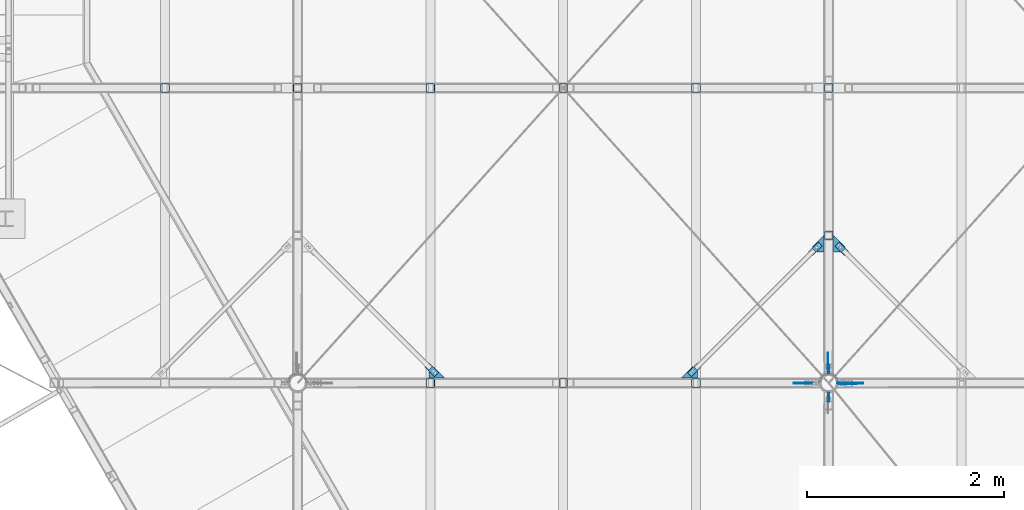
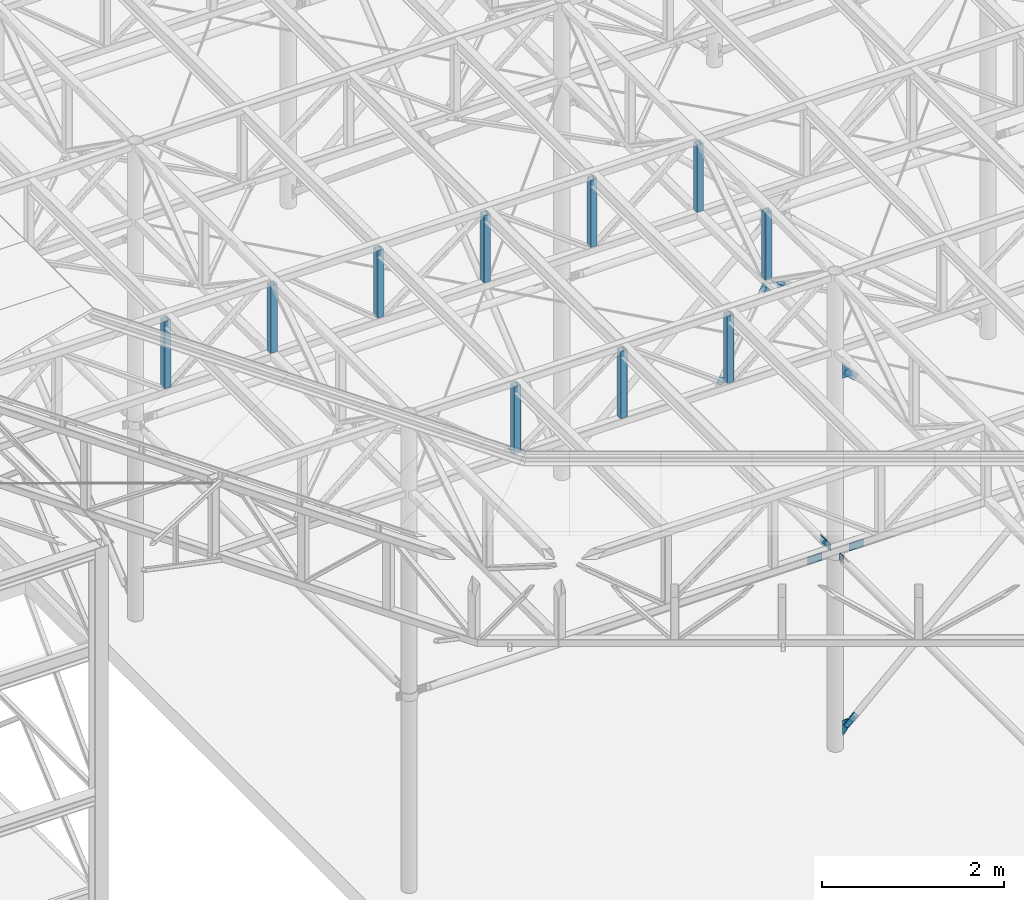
# One storey, part 74 of 132: 31 discrete accessories, 18 elements without a shape of their own.
"""IFC2X3 building model written with IfcOpenShell, lengths in millimetres."""

from ifc_helpers import new_model, si_unit, frame, origin_with_axes, origin_2d_with_axis, place, context, subcontext, project, spatial, polyline, rectangle, hollow_rectangle, outline, extrude, boolean, clip, halfspace, material, type_object, element, aggregate, save


model = new_model("IFC2X3")

# Units and contexts
model_context = context("Model", 3, precision=1e-05, world=origin_with_axes())
body_context = subcontext(model_context, "Body", "Model", "MODEL_VIEW")
ifc_project = project(units=[si_unit("LENGTHUNIT", "METRE", prefix="MILLI"), si_unit("AREAUNIT", "SQUARE_METRE"), si_unit("VOLUMEUNIT", "CUBIC_METRE"), si_unit("MASSUNIT", "GRAM", prefix="KILO"), si_unit("TIMEUNIT", "SECOND"), si_unit("PLANEANGLEUNIT", "RADIAN"), si_unit("SOLIDANGLEUNIT", "STERADIAN"), si_unit("THERMODYNAMICTEMPERATUREUNIT", "DEGREE_CELSIUS"), si_unit("LUMINOUSINTENSITYUNIT", "LUMEN")], contexts=[model_context])

# Site, building, storey
site_placement = place(None, origin_with_axes())
site = spatial("IfcSite", under=ifc_project, at=site_placement, Name="Budowa", CompositionType="ELEMENT")
building_placement = place(site_placement, origin_with_axes())
building = spatial("IfcBuilding", under=site, at=building_placement, Name="Undefined", CompositionType="ELEMENT")
storey_placement = place(building_placement, origin_with_axes())
storey = spatial("IfcBuildingStorey", under=building, at=storey_placement, Name="Undefined", CompositionType="ELEMENT", Elevation=0.0)

# Assembly, discrete accessory
assembly_1_placement = place(storey_placement, origin_with_axes())
assembly_1 = element("IfcElementAssembly", 1, at=assembly_1_placement, inside=storey, Name="Steel Assembly", AssemblyPlace="NOTDEFINED", PredefinedType="RIGID_FRAME")
ifc_material = material(Name="STEEL/S235")
discrete_accessory_type_1 = type_object("IfcDiscreteAccessoryType", Name="BLACHA")
discrete_accessory_1_placement = place(assembly_1_placement, frame((9251.86330560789, 5997.99999945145, 10116.0003779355), z_axis=(0.0, 1.0, 0.0), x_axis=(-1.0, 0.0, 0.0)))
discrete_accessory_1 = element("IfcDiscreteAccessory", 2, at=discrete_accessory_1_placement, type_object=discrete_accessory_type_1, material=ifc_material, Name="BLACHA", ObjectType="BL8*100", context=body_context, shape_type="SweptSolid", body=[
    extrude(outline(polyline([(180.0, -50.0), (0.0, -50.0), (0.0, 50.0), (180.0, 50.0), (180.0, -50.0)])), frame((0.0, 0.0, -4.0), z_axis=(0.0, 0.0, 1.0), x_axis=(1.0, 0.0, 0.0)), (0.0, 0.0, 1.0), 8.0),
])
aggregate(assembly_1, [discrete_accessory_1])

assembly_2_placement = place(storey_placement, origin_with_axes())
assembly_2 = element("IfcElementAssembly", 3, at=assembly_2_placement, inside=storey, Name="Steel Assembly", AssemblyPlace="NOTDEFINED", PredefinedType="RIGID_FRAME")
discrete_accessory_2_placement = place(assembly_2_placement, frame((9425.0000024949, 5902.00435667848, 10166.0003799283), z_axis=(-1.0, 0.0, 0.0), x_axis=(0.0, 0.0, -1.0)))
discrete_accessory_2 = element("IfcDiscreteAccessory", 4, at=discrete_accessory_2_placement, type_object=discrete_accessory_type_1, material=ifc_material, Name="BLACHA", ObjectType="BL8*90", context=body_context, shape_type="SweptSolid", body=[
    extrude(outline(polyline([(0.0, 0.0), (100.0, 0.0), (100.0, 89.9122619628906), (0.0, 89.9122619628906), (0.0, 0.0)])), frame((0.0, 0.0, -4.0), z_axis=(0.0, 0.0, 1.0), x_axis=(1.0, 0.0, 0.0)), (0.0, 0.0, 1.0), 8.0),
])
aggregate(assembly_2, [discrete_accessory_2])

assembly_3_placement = place(storey_placement, origin_with_axes())
assembly_3 = element("IfcElementAssembly", 5, at=assembly_3_placement, inside=storey, Name="Steel Assembly", AssemblyPlace="NOTDEFINED", PredefinedType="RIGID_FRAME")
discrete_accessory_3_placement = place(assembly_3_placement, frame((9417.00000277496, 6127.90790542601, 10116.0003779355), z_axis=(1.0, 0.0, 0.0), x_axis=(0.0, 1.0, 0.0)))
discrete_accessory_3 = element("IfcDiscreteAccessory", 6, at=discrete_accessory_3_placement, type_object=discrete_accessory_type_1, material=ifc_material, Name="BLACHA", ObjectType="BL8*100", context=body_context, shape_type="SweptSolid", body=[
    extrude(outline(polyline([(0.0, -50.0), (0.0, 50.0), (180.0, 50.0), (180.0, -50.0), (0.0, -50.0)])), frame((0.0, 0.0, -4.0), z_axis=(0.0, 0.0, 1.0), x_axis=(1.0, 0.0, 0.0)), (0.0, 0.0, 1.0), 8.0),
])
aggregate(assembly_3, [discrete_accessory_3])

assembly_4_placement = place(storey_placement, origin_with_axes())
assembly_4 = element("IfcElementAssembly", 7, at=assembly_4_placement, inside=storey, Name="Steel Assembly", AssemblyPlace="NOTDEFINED", PredefinedType="RIGID_FRAME")
discrete_accessory_4_placement = place(assembly_4_placement, frame((9425.00000277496, 6097.99564346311, 10066.0003796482), z_axis=(-1.0, 0.0, 0.0), x_axis=(0.0, 0.0, 1.0)))
discrete_accessory_4 = element("IfcDiscreteAccessory", 8, at=discrete_accessory_4_placement, type_object=discrete_accessory_type_1, material=ifc_material, Name="BLACHA", ObjectType="BL8*90", context=body_context, shape_type="SweptSolid", body=[
    extrude(outline(polyline([(0.0, 0.0), (100.0, 0.0), (100.0, 89.9122619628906), (0.0, 89.9122619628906), (0.0, 0.0)])), frame((0.0, 0.0, -4.0), z_axis=(0.0, 0.0, 1.0), x_axis=(1.0, 0.0, 0.0)), (0.0, 0.0, 1.0), 8.0),
])
aggregate(assembly_4, [discrete_accessory_4])

assembly_5_placement = place(storey_placement, origin_with_axes())
assembly_5 = element("IfcElementAssembly", 9, at=assembly_5_placement, inside=storey, Name="Steel Assembly", AssemblyPlace="NOTDEFINED", PredefinedType="RIGID_FRAME")
discrete_accessory_5_placement = place(assembly_5_placement, frame((9547.31003908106, 5989.99999762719, 7734.82673924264), z_axis=(0.67855182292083, 0.0, -0.734552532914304), x_axis=(0.734552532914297, 0.0, 0.678551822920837)))
discrete_accessory_5 = element("IfcDiscreteAccessory", 10, at=discrete_accessory_5_placement, type_object=discrete_accessory_type_1, material=ifc_material, Name="BLACHA", ObjectType="BL8*86", context=body_context, shape_type="CSG", body=[
    boolean("DIFFERENCE", boolean("DIFFERENCE", extrude(rectangle(XDim=8.0, YDim=86.0, at=origin_2d_with_axis()), frame((190.000000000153, -3.63797880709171e-12, 3.30513394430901e-13), z_axis=(-1.0, 0.0, 0.0), x_axis=(0.0, -1.0, 0.0)), (0.0, 0.0, 1.0), 190.0), extrude(outline(polyline([(0.0, 0.0), (20.0000000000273, -3.63797880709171e-12), (5.45696821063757e-12, 20.0000000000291), (0.0, 0.0)])), frame((-1.81898940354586e-12, 6.49999757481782, 42.9999999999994), z_axis=(0.0, -1.0, 0.0), x_axis=(0.0, 0.0, -1.0)), (0.0, 0.0, 1.0), 13.0)), extrude(outline(polyline([(0.0, 0.0), (20.0000000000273, -3.63797880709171e-12), (5.45696821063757e-12, 20.0000000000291), (0.0, 0.0)])), frame((-1.81898940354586e-12, -6.50000242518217, -42.9999999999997), z_axis=(0.0, 1.0, 0.0), x_axis=(0.0, 0.0, 1.0)), (0.0, 0.0, 1.0), 13.0)),
])
aggregate(assembly_5, [discrete_accessory_5])

assembly_6_placement = place(storey_placement, origin_with_axes())
assembly_6 = element("IfcElementAssembly", 11, at=assembly_6_placement, inside=storey, Name="Steel Assembly", AssemblyPlace="NOTDEFINED", PredefinedType="RIGID_FRAME")
discrete_accessory_6_placement = place(assembly_6_placement, frame((9513.8999996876, 5999.99900012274, 7825.00048828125), z_axis=(0.0, -1.0, 0.0), x_axis=(0.0, 0.0, -1.0)))
discrete_accessory_6 = element("IfcDiscreteAccessory", 12, at=discrete_accessory_6_placement, type_object=discrete_accessory_type_1, material=ifc_material, Name="BLACHA", ObjectType="BL8*126", context=body_context, shape_type="SweptSolid", body=[
    extrude(outline(polyline([(0.0, 0.0), (203.000061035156, 0.0), (203.000061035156, 10.0), (57.9996109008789, 126.000587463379), (-9.02218744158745e-10, 73.001091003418), (0.0, 0.0)])), frame((0.0, 0.0, -4.0), z_axis=(0.0, 0.0, 1.0), x_axis=(1.0, 0.0, 0.0)), (0.0, 0.0, 1.0), 8.0),
])

assembly_7_placement = place(storey_placement, origin_with_axes())
assembly_7 = element("IfcElementAssembly", 13, at=assembly_7_placement, inside=storey, Name="Steel Assembly", AssemblyPlace="NOTDEFINED", PredefinedType="RIGID_FRAME")
discrete_accessory_7_placement = place(assembly_7_placement, frame((9598.1366940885, 5997.99999945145, 10116.0003779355), z_axis=(0.0, -1.0, 0.0), x_axis=(1.0, 0.0, 0.0)))
discrete_accessory_7 = element("IfcDiscreteAccessory", 14, at=discrete_accessory_7_placement, type_object=discrete_accessory_type_1, material=ifc_material, Name="BLACHA", ObjectType="BL8*100", context=body_context, shape_type="SweptSolid", body=[
    extrude(outline(polyline([(0.0, -50.0), (0.0, 50.0), (180.0, 50.0), (180.0, -50.0), (0.0, -50.0)])), frame((0.0, 0.0, -4.0), z_axis=(0.0, 0.0, 1.0), x_axis=(1.0, 0.0, 0.0)), (0.0, 0.0, 1.0), 8.0),
])
aggregate(assembly_7, [discrete_accessory_7])

assembly_8_placement = place(storey_placement, origin_with_axes())
assembly_8 = element("IfcElementAssembly", 15, at=assembly_8_placement, inside=storey, Name="Steel Assembly", AssemblyPlace="NOTDEFINED", PredefinedType="RIGID_FRAME")
discrete_accessory_8_placement = place(assembly_8_placement, frame((9547.31003885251, 5989.99999752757, 12497.1740173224), z_axis=(-0.67855182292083, 0.0, -0.734552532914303), x_axis=(0.734552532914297, 0.0, -0.678551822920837)))
discrete_accessory_8 = element("IfcDiscreteAccessory", 16, at=discrete_accessory_8_placement, type_object=discrete_accessory_type_1, material=ifc_material, Name="BLACHA", ObjectType="BL8*86", context=body_context, shape_type="CSG", body=[
    boolean("DIFFERENCE", boolean("DIFFERENCE", extrude(rectangle(XDim=8.0, YDim=86.0, at=origin_2d_with_axis()), frame((190.000000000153, -3.63797880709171e-12, 3.30513394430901e-13), z_axis=(-1.0, 0.0, 0.0), x_axis=(0.0, -1.0, 0.0)), (0.0, 0.0, 1.0), 190.0), extrude(outline(polyline([(0.0, 0.0), (20.0000000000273, -3.63797880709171e-12), (5.45696821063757e-12, 20.0000000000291), (0.0, 0.0)])), frame((-1.81898940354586e-12, 6.49999757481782, 42.9999999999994), z_axis=(0.0, -1.0, 0.0), x_axis=(0.0, 0.0, -1.0)), (0.0, 0.0, 1.0), 13.0)), extrude(outline(polyline([(0.0, 0.0), (20.0000000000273, -3.63797880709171e-12), (5.45696821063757e-12, 20.0000000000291), (0.0, 0.0)])), frame((-1.81898940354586e-12, -6.50000242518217, -42.9999999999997), z_axis=(0.0, 1.0, 0.0), x_axis=(0.0, 0.0, 1.0)), (0.0, 0.0, 1.0), 13.0)),
])
aggregate(assembly_8, [discrete_accessory_8])

# Discrete accessory
discrete_accessory_9_placement = place(assembly_6_placement, frame((9513.8999996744, 5999.99900012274, 12610.0003356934), z_axis=(0.0, -1.0, 0.0), x_axis=(0.0, 0.0, -1.0)))
discrete_accessory_9 = element("IfcDiscreteAccessory", 17, at=discrete_accessory_9_placement, type_object=discrete_accessory_type_1, material=ifc_material, Name="BLACHA", ObjectType="BL8*126", context=body_context, shape_type="SweptSolid", body=[
    extrude(outline(polyline([(0.0, 0.0), (203.000061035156, 0.0), (203.000061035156, 73.001091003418), (144.99951171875, 126.000587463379), (0.0, 10.0), (0.0, 0.0)])), frame((0.0, 0.0, -4.0), z_axis=(0.0, 0.0, 1.0), x_axis=(1.0, 0.0, 0.0)), (0.0, 0.0, 1.0), 8.0),
])

# Assembly, discrete accessory
assembly_9_placement = place(storey_placement, origin_with_axes())
assembly_9 = element("IfcElementAssembly", 18, at=assembly_9_placement, inside=storey, Name="Steel Assembly", AssemblyPlace="NOTDEFINED", PredefinedType="RIGID_FRAME")
discrete_accessory_10_placement = place(assembly_9_placement, frame((9547.31003901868, 5991.99999762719, 7734.82673918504), z_axis=(0.67855182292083, 0.0, -0.734552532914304), x_axis=(0.734552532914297, 0.0, 0.678551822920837)))
discrete_accessory_10 = element("IfcDiscreteAccessory", 19, at=discrete_accessory_10_placement, type_object=discrete_accessory_type_1, material=ifc_material, Name="BLACHA", ObjectType="BL8*69", context=body_context, shape_type="SweptSolid", body=[
    extrude(rectangle(XDim=8.0, YDim=69.0, at=origin_2d_with_axis()), frame((149.999999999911, 0.0, 0.0), z_axis=(-1.0, 0.0, 0.0), x_axis=(0.0, -1.0, 0.0)), (0.0, 0.0, 1.0), 150.0),
])
aggregate(assembly_9, [discrete_accessory_10])

# Discrete accessory
discrete_accessory_11_placement = place(assembly_6_placement, frame((9513.89999962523, 5999.99999762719, 7824.91122862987), z_axis=(0.0, -1.0, 0.0), x_axis=(0.0, 0.0, -1.0)))
discrete_accessory_11 = element("IfcDiscreteAccessory", 20, at=discrete_accessory_11_placement, type_object=discrete_accessory_type_1, material=ifc_material, Name="BLACHA", ObjectType="BL8*126", context=body_context, shape_type="SweptSolid", body=[
    extrude(outline(polyline([(0.0, 0.0), (174.721649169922, 0.0), (174.721649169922, 10.0), (58.0296516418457, 126.322563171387), (0.0, 72.7169723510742), (0.0, 0.0)])), frame((0.0, 0.0, -4.0), z_axis=(0.0, 0.0, 1.0), x_axis=(1.0, 0.0, 0.0)), (0.0, 0.0, 1.0), 8.0),
])

# Assembly, discrete accessory
assembly_10_placement = place(storey_placement, origin_with_axes())
assembly_10 = element("IfcElementAssembly", 21, at=assembly_10_placement, inside=storey, Name="Steel Assembly", AssemblyPlace="NOTDEFINED", PredefinedType="RIGID_FRAME")
discrete_accessory_12_placement = place(assembly_10_placement, frame((9547.31003879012, 5991.99999752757, 12497.17401738), z_axis=(-0.67855182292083, 0.0, -0.734552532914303), x_axis=(0.734552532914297, 0.0, -0.678551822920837)))
discrete_accessory_12 = element("IfcDiscreteAccessory", 22, at=discrete_accessory_12_placement, type_object=discrete_accessory_type_1, material=ifc_material, Name="BLACHA", ObjectType="BL8*69", context=body_context, shape_type="SweptSolid", body=[
    extrude(rectangle(XDim=8.0, YDim=69.0, at=origin_2d_with_axis()), frame((149.999999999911, 0.0, 0.0), z_axis=(-1.0, 0.0, 0.0), x_axis=(0.0, -1.0, 0.0)), (0.0, 0.0, 1.0), 150.0),
])
aggregate(assembly_10, [discrete_accessory_12])

# Discrete accessory
discrete_accessory_13_placement = place(assembly_6_placement, frame((9513.89999961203, 5999.99999752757, 12581.8111792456), z_axis=(0.0, -1.0, 0.0), x_axis=(0.0, 0.0, -1.0)))
discrete_accessory_13 = element("IfcDiscreteAccessory", 23, at=discrete_accessory_13_placement, type_object=discrete_accessory_type_1, material=ifc_material, Name="BLACHA", ObjectType="BL8*126", context=body_context, shape_type="SweptSolid", body=[
    extrude(outline(polyline([(0.0, 0.0), (174.721649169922, 0.0), (174.721649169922, 72.7169723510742), (116.692001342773, 126.322563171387), (0.0, 10.0), (0.0, 0.0)])), frame((0.0, 0.0, -4.0), z_axis=(0.0, 0.0, 1.0), x_axis=(1.0, 0.0, 0.0)), (0.0, 0.0, 1.0), 8.0),
])

aggregate(assembly_6, [discrete_accessory_6, discrete_accessory_9, discrete_accessory_11, discrete_accessory_13])

# Assembly, discrete accessory
assembly_11_placement = place(storey_placement, origin_with_axes())
assembly_11 = element("IfcElementAssembly", 24, at=assembly_11_placement, inside=storey, Name="Steel Assembly", AssemblyPlace="NOTDEFINED", PredefinedType="RIGID_FRAME")
discrete_accessory_14_placement = place(assembly_11_placement, frame((9630.42135806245, 7336.80504885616, 12830.0), z_axis=(0.0, 0.0, 1.0), x_axis=(-0.707106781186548, 0.707106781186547, 0.0)))
discrete_accessory_14 = element("IfcDiscreteAccessory", 25, at=discrete_accessory_14_placement, type_object=discrete_accessory_type_1, material=ifc_material, Name="BLACHA", ObjectType="BL6*60", context=body_context, shape_type="SweptSolid", body=[
    extrude(outline(polyline([(0.0, 0.0), (139.99999999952, -6.2755134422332e-10), (139.99999999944, 59.9999999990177), (0.0, 60.0), (-8.00355337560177e-11, 54.9999999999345), (49.9999999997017, 54.9999999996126), (49.9999999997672, 4.99999999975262), (-8.73114913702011e-11, 5.00000000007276), (0.0, 0.0)])), frame((0.0, 0.0, -3.0), z_axis=(0.0, 0.0, 1.0), x_axis=(1.0, 0.0, 0.0)), (0.0, 0.0, 1.0), 6.0),
])
aggregate(assembly_11, [discrete_accessory_14])

assembly_12_placement = place(storey_placement, origin_with_axes())
assembly_12 = element("IfcElementAssembly", 26, at=assembly_12_placement, inside=storey, Name="Steel Assembly", AssemblyPlace="NOTDEFINED", PredefinedType="RIGID_FRAME")
discrete_accessory_15_placement = place(assembly_12_placement, frame((9474.99999994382, 7499.29747478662, 12824.0), z_axis=(0.0, 0.0, 1.0), x_axis=(0.0, -1.0, 0.0)))
discrete_accessory_15 = element("IfcDiscreteAccessory", 27, at=discrete_accessory_15_placement, type_object=discrete_accessory_type_1, material=ifc_material, Name="BLACHA", ObjectType="BL6*117", context=body_context, shape_type="SweptSolid", body=[
    extrude(outline(polyline([(0.0, 0.0), (166.027954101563, 0.0), (166.027954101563, 67.0330123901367), (116.530487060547, 116.530487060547), (0.0, 0.0)])), frame((0.0, 0.0, -3.0), z_axis=(0.0, 0.0, 1.0), x_axis=(1.0, 0.0, 0.0)), (0.0, 0.0, 1.0), 6.0),
])

assembly_13_placement = place(storey_placement, origin_with_axes())
assembly_13 = element("IfcElementAssembly", 28, at=assembly_13_placement, inside=storey, Name="Steel Assembly", AssemblyPlace="NOTDEFINED", PredefinedType="RIGID_FRAME")
discrete_accessory_16_placement = place(assembly_13_placement, frame((8088.19495113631, 6205.42135816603, 12830.0), z_axis=(0.0, 0.0, 1.0), x_axis=(-0.70710678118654, -0.707106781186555, 0.0)))
discrete_accessory_16 = element("IfcDiscreteAccessory", 29, at=discrete_accessory_16_placement, type_object=discrete_accessory_type_1, material=ifc_material, Name="BLACHA", ObjectType="BL6*60", context=body_context, shape_type="SweptSolid", body=[
    extrude(outline(polyline([(0.0, 0.0), (139.99999999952, -6.2755134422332e-10), (139.99999999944, 59.9999999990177), (0.0, 60.0), (-8.00355337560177e-11, 54.9999999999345), (49.9999999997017, 54.9999999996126), (49.9999999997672, 4.99999999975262), (-8.73114913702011e-11, 5.00000000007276), (0.0, 0.0)])), frame((0.0, 0.0, -3.0), z_axis=(0.0, 0.0, 1.0), x_axis=(1.0, 0.0, 0.0)), (0.0, 0.0, 1.0), 6.0),
])

assembly_14_placement = place(storey_placement, origin_with_axes())
assembly_14 = element("IfcElementAssembly", 30, at=assembly_14_placement, inside=storey, Name="Steel Assembly", AssemblyPlace="NOTDEFINED", PredefinedType="RIGID_FRAME")
discrete_accessory_17_placement = place(assembly_14_placement, frame((7925.70252520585, 6050.00000004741, 12824.0), z_axis=(0.0, 0.0, 1.0), x_axis=(1.0, 0.0, 0.0)))
discrete_accessory_17 = element("IfcDiscreteAccessory", 31, at=discrete_accessory_17_placement, type_object=discrete_accessory_type_1, material=ifc_material, Name="BLACHA", ObjectType="BL6*117", context=body_context, shape_type="SweptSolid", body=[
    extrude(outline(polyline([(0.0, 0.0), (166.027954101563, 0.0), (166.027954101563, 67.0330123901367), (116.530487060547, 116.530487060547), (0.0, 0.0)])), frame((0.0, 0.0, -3.0), z_axis=(0.0, 0.0, 1.0), x_axis=(1.0, 0.0, 0.0)), (0.0, 0.0, 1.0), 6.0),
])

# Discrete accessory
discrete_accessory_18_placement = place(assembly_13_placement, frame((9262.00504867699, 7294.37864196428, 12830.0), z_axis=(0.0, 0.0, 1.0), x_axis=(0.707106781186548, 0.707106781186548, 0.0)))
discrete_accessory_18 = element("IfcDiscreteAccessory", 32, at=discrete_accessory_18_placement, type_object=discrete_accessory_type_1, material=ifc_material, Name="BLACHA", ObjectType="BL6*60", context=body_context, shape_type="SweptSolid", body=[
    extrude(outline(polyline([(0.0, 0.0), (139.99999999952, -6.2755134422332e-10), (139.99999999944, 59.9999999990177), (0.0, 60.0), (-8.00355337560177e-11, 54.9999999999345), (49.9999999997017, 54.9999999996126), (49.9999999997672, 4.99999999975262), (-8.73114913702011e-11, 5.00000000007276), (0.0, 0.0)])), frame((0.0, 0.0, -3.0), z_axis=(0.0, 0.0, 1.0), x_axis=(1.0, 0.0, 0.0)), (0.0, 0.0, 1.0), 6.0),
])

aggregate(assembly_13, [discrete_accessory_16, discrete_accessory_18])

discrete_accessory_19_placement = place(assembly_12_placement, frame((9374.99999994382, 7333.26951683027, 12824.0), z_axis=(0.0, 0.0, 1.0), x_axis=(0.0, 1.0, 0.0)))
discrete_accessory_19 = element("IfcDiscreteAccessory", 33, at=discrete_accessory_19_placement, type_object=discrete_accessory_type_1, material=ifc_material, Name="BLACHA", ObjectType="BL6*117", context=body_context, shape_type="SweptSolid", body=[
    extrude(outline(polyline([(0.0, 0.0), (166.027954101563, 0.0), (49.4974746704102, 116.530487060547), (0.0, 67.0330123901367), (0.0, 0.0)])), frame((0.0, 0.0, -3.0), z_axis=(0.0, 0.0, 1.0), x_axis=(1.0, 0.0, 0.0)), (0.0, 0.0, 1.0), 6.0),
])

# Assembly, discrete accessory
assembly_15_placement = place(storey_placement, origin_with_axes())
assembly_15 = element("IfcElementAssembly", 34, at=assembly_15_placement, inside=storey, Name="Steel Assembly", AssemblyPlace="NOTDEFINED", PredefinedType="RIGID_FRAME")
discrete_accessory_20_placement = place(assembly_15_placement, frame((5319.37864183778, 6162.99495131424, 12830.0), z_axis=(0.0, 0.0, 1.0), x_axis=(0.707106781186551, -0.707106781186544, 0.0)))
discrete_accessory_20 = element("IfcDiscreteAccessory", 35, at=discrete_accessory_20_placement, type_object=discrete_accessory_type_1, material=ifc_material, Name="BLACHA", ObjectType="BL6*60", context=body_context, shape_type="SweptSolid", body=[
    extrude(outline(polyline([(0.0, 0.0), (139.99999999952, -6.2755134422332e-10), (139.99999999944, 59.9999999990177), (0.0, 60.0), (-8.00355337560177e-11, 54.9999999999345), (49.9999999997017, 54.9999999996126), (49.9999999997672, 4.99999999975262), (-8.73114913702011e-11, 5.00000000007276), (0.0, 0.0)])), frame((0.0, 0.0, -3.0), z_axis=(0.0, 0.0, 1.0), x_axis=(1.0, 0.0, 0.0)), (0.0, 0.0, 1.0), 6.0),
])
aggregate(assembly_15, [discrete_accessory_20])

# Discrete accessory
discrete_accessory_21_placement = place(assembly_14_placement, frame((5358.26951670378, 6050.00000004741, 12824.0), z_axis=(0.0, 0.0, 1.0), x_axis=(1.0, 0.0, 0.0)))
discrete_accessory_21 = element("IfcDiscreteAccessory", 36, at=discrete_accessory_21_placement, type_object=discrete_accessory_type_1, material=ifc_material, Name="BLACHA", ObjectType="BL6*117", context=body_context, shape_type="SweptSolid", body=[
    extrude(outline(polyline([(0.0, 0.0), (166.027954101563, 0.0), (49.4974746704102, 116.530487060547), (0.0, 67.0330123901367), (0.0, 0.0)])), frame((0.0, 0.0, -3.0), z_axis=(0.0, 0.0, 1.0), x_axis=(1.0, 0.0, 0.0)), (0.0, 0.0, 1.0), 6.0),
])

# Assembly, discrete accessory
assembly_16_placement = place(storey_placement, origin_with_axes())
assembly_16 = element("IfcElementAssembly", 37, at=assembly_16_placement, inside=storey, Name="Steel Assembly", AssemblyPlace="NOTDEFINED", PredefinedType="RIGID_FRAME")
discrete_accessory_type_2 = type_object("IfcDiscreteAccessoryType", Name="BEAM")
discrete_accessory_22_placement = place(assembly_16_placement, frame((2676.09999996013, 9000.00000004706, 13780.0), z_axis=(1.0, 0.0, 0.0), x_axis=(0.0, 0.0, -1.0)))
discrete_accessory_22 = element("IfcDiscreteAccessory", 38, at=discrete_accessory_22_placement, type_object=discrete_accessory_type_2, material=ifc_material, Name="BEAM", ObjectType="SHS90*6", context=body_context, shape_type="Clipping", body=[
    clip(clip(extrude(hollow_rectangle(XDim=90.0, YDim=90.0, WallThickness=6.0, InnerFilletRadius=6.0, OuterFilletRadius=12.0, at=origin_2d_with_axis()), frame((900.0, 0.0, 0.0), z_axis=(-1.0, 0.0, 0.0), x_axis=(0.0, -1.0, 0.0)), (0.0, 0.0, 1.0), 900.0), halfspace(frame((900.0, 0.0, 1000.0), z_axis=(-1.0, 0.0, 0.0), x_axis=(0.0, -1.0, 0.0)), True)), halfspace(frame((0.0, 0.0, 1000.0), z_axis=(1.0, 0.0, 0.0), x_axis=(0.0, 1.0, 0.0)), True)),
])
aggregate(assembly_16, [discrete_accessory_22])

# Assembly, discrete accessories
assembly_17_placement = place(storey_placement, origin_with_axes())
assembly_17 = element("IfcElementAssembly", 39, at=assembly_17_placement, inside=storey, Name="Steel Assembly", AssemblyPlace="NOTDEFINED", PredefinedType="RIGID_FRAME")
discrete_accessory_23_placement = place(assembly_17_placement, frame((8074.99999993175, 9000.00000004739, 13780.0), z_axis=(0.0, -1.0, 0.0), x_axis=(0.0, 0.0, -1.0)))
discrete_accessory_23 = element("IfcDiscreteAccessory", 40, at=discrete_accessory_23_placement, type_object=discrete_accessory_type_2, material=ifc_material, Name="BEAM", ObjectType="SHS90*6", context=body_context, shape_type="Clipping", body=[
    clip(clip(extrude(hollow_rectangle(XDim=90.0, YDim=90.0, WallThickness=6.0, InnerFilletRadius=6.0, OuterFilletRadius=12.0, at=origin_2d_with_axis()), frame((900.0, 0.0, 0.0), z_axis=(-1.0, 0.0, 0.0), x_axis=(0.0, -1.0, 0.0)), (0.0, 0.0, 1.0), 900.0), halfspace(frame((900.0, 0.0, 1000.0), z_axis=(-1.0, 0.0, 0.0), x_axis=(0.0, -1.0, 0.0)), True)), halfspace(frame((0.0, 0.0, 1000.0), z_axis=(1.0, 0.0, 0.0), x_axis=(0.0, 1.0, 0.0)), True)),
])
discrete_accessory_24_placement = place(assembly_17_placement, frame((5374.99999993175, 9000.00000004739, 13780.0), z_axis=(0.0, -1.0, 0.0), x_axis=(0.0, 0.0, -1.0)))
discrete_accessory_24 = element("IfcDiscreteAccessory", 41, at=discrete_accessory_24_placement, type_object=discrete_accessory_type_2, material=ifc_material, Name="BEAM", ObjectType="SHS90*6", context=body_context, shape_type="Clipping", body=[
    clip(clip(extrude(hollow_rectangle(XDim=90.0, YDim=90.0, WallThickness=6.0, InnerFilletRadius=6.0, OuterFilletRadius=12.0, at=origin_2d_with_axis()), frame((900.0, 0.0, 0.0), z_axis=(-1.0, 0.0, 0.0), x_axis=(0.0, -1.0, 0.0)), (0.0, 0.0, 1.0), 900.0), halfspace(frame((900.0, 0.0, 1000.0), z_axis=(-1.0, 0.0, 0.0), x_axis=(0.0, -1.0, 0.0)), True)), halfspace(frame((0.0, 0.0, 1000.0), z_axis=(1.0, 0.0, 0.0), x_axis=(0.0, 1.0, 0.0)), True)),
])
discrete_accessory_25_placement = place(assembly_17_placement, frame((6724.99999993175, 9000.00000004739, 13780.0), z_axis=(0.0, -1.0, 0.0), x_axis=(0.0, 0.0, -1.0)))
discrete_accessory_25 = element("IfcDiscreteAccessory", 42, at=discrete_accessory_25_placement, type_object=discrete_accessory_type_2, material=ifc_material, Name="BEAM", ObjectType="SHS90*6", context=body_context, shape_type="Clipping", body=[
    clip(clip(extrude(hollow_rectangle(XDim=90.0, YDim=90.0, WallThickness=6.0, InnerFilletRadius=6.0, OuterFilletRadius=12.0, at=origin_2d_with_axis()), frame((900.0, 0.0, 0.0), z_axis=(-1.0, 0.0, 0.0), x_axis=(0.0, -1.0, 0.0)), (0.0, 0.0, 1.0), 900.0), halfspace(frame((900.0, 0.0, 1000.0), z_axis=(-1.0, 0.0, 0.0), x_axis=(0.0, -1.0, 0.0)), True)), halfspace(frame((0.0, 0.0, 1000.0), z_axis=(1.0, 0.0, 0.0), x_axis=(0.0, 1.0, 0.0)), True)),
])
aggregate(assembly_17, [discrete_accessory_23, discrete_accessory_24, discrete_accessory_25])

# Assembly, discrete accessory
assembly_18_placement = place(storey_placement, origin_with_axes())
assembly_18 = element("IfcElementAssembly", 43, at=assembly_18_placement, inside=storey, Name="Steel Assembly", AssemblyPlace="NOTDEFINED", PredefinedType="RIGID_FRAME")
discrete_accessory_26_placement = place(assembly_18_placement, frame((4024.99999991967, 9000.00000004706, 13780.0), z_axis=(1.0, 0.0, 0.0), x_axis=(0.0, 0.0, -1.0)))
discrete_accessory_26 = element("IfcDiscreteAccessory", 44, at=discrete_accessory_26_placement, type_object=discrete_accessory_type_2, material=ifc_material, Name="BEAM", ObjectType="SHS90*6", context=body_context, shape_type="Clipping", body=[
    clip(clip(extrude(hollow_rectangle(XDim=90.0, YDim=90.0, WallThickness=6.0, InnerFilletRadius=6.0, OuterFilletRadius=12.0, at=origin_2d_with_axis()), frame((900.0, 0.0, 0.0), z_axis=(-1.0, 0.0, 0.0), x_axis=(0.0, -1.0, 0.0)), (0.0, 0.0, 1.0), 900.0), halfspace(frame((900.0, 0.0, 1000.0), z_axis=(-1.0, 0.0, 0.0), x_axis=(0.0, -1.0, 0.0)), True)), halfspace(frame((0.0, 0.0, 1000.0), z_axis=(1.0, 0.0, 0.0), x_axis=(0.0, 1.0, 0.0)), True)),
])
aggregate(assembly_18, [discrete_accessory_26])

# Discrete accessory
discrete_accessory_27_placement = place(assembly_12_placement, frame((9424.99999994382, 7500.00000004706, 13780.0), z_axis=(1.0, 0.0, 0.0), x_axis=(0.0, 0.0, -1.0)))
discrete_accessory_27 = element("IfcDiscreteAccessory", 45, at=discrete_accessory_27_placement, type_object=discrete_accessory_type_2, material=ifc_material, Name="BEAM", ObjectType="SHS90*6", context=body_context, shape_type="Clipping", body=[
    clip(clip(extrude(hollow_rectangle(XDim=90.0, YDim=90.0, WallThickness=6.0, InnerFilletRadius=6.0, OuterFilletRadius=12.0, at=origin_2d_with_axis()), frame((900.0, 0.0, 0.0), z_axis=(-1.0, 0.0, 0.0), x_axis=(0.0, -1.0, 0.0)), (0.0, 0.0, 1.0), 900.0), halfspace(frame((900.0, 0.0, 1000.0), z_axis=(-1.0, 0.0, 0.0), x_axis=(0.0, -1.0, 0.0)), True)), halfspace(frame((0.0, 0.0, 1000.0), z_axis=(1.0, 0.0, 0.0), x_axis=(0.0, 1.0, 0.0)), True)),
])

discrete_accessory_28_placement = place(assembly_12_placement, frame((9424.99999994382, 9000.00000004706, 13780.0), z_axis=(1.0, 0.0, 0.0), x_axis=(0.0, 0.0, -1.0)))
discrete_accessory_28 = element("IfcDiscreteAccessory", 46, at=discrete_accessory_28_placement, type_object=discrete_accessory_type_2, material=ifc_material, Name="BEAM", ObjectType="SHS90*6", context=body_context, shape_type="Clipping", body=[
    clip(clip(extrude(hollow_rectangle(XDim=90.0, YDim=90.0, WallThickness=6.0, InnerFilletRadius=6.0, OuterFilletRadius=12.0, at=origin_2d_with_axis()), frame((900.0, 0.0, 0.0), z_axis=(-1.0, 0.0, 0.0), x_axis=(0.0, -1.0, 0.0)), (0.0, 0.0, 1.0), 900.0), halfspace(frame((900.0, 0.0, 1000.0), z_axis=(-1.0, 0.0, 0.0), x_axis=(0.0, -1.0, 0.0)), True)), halfspace(frame((0.0, 0.0, 1000.0), z_axis=(1.0, 0.0, 0.0), x_axis=(0.0, 1.0, 0.0)), True)),
])

aggregate(assembly_12, [discrete_accessory_15, discrete_accessory_19, discrete_accessory_27, discrete_accessory_28])

discrete_accessory_29_placement = place(assembly_14_placement, frame((8074.99999993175, 6000.00000004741, 13780.0), z_axis=(0.0, -1.0, 0.0), x_axis=(0.0, 0.0, -1.0)))
discrete_accessory_29 = element("IfcDiscreteAccessory", 47, at=discrete_accessory_29_placement, type_object=discrete_accessory_type_2, material=ifc_material, Name="BEAM", ObjectType="SHS90*6", context=body_context, shape_type="Clipping", body=[
    clip(clip(extrude(hollow_rectangle(XDim=90.0, YDim=90.0, WallThickness=6.0, InnerFilletRadius=6.0, OuterFilletRadius=12.0, at=origin_2d_with_axis()), frame((900.0, 0.0, 0.0), z_axis=(-1.0, 0.0, 0.0), x_axis=(0.0, -1.0, 0.0)), (0.0, 0.0, 1.0), 900.0), halfspace(frame((900.0, 0.0, 1000.0), z_axis=(-1.0, 0.0, 0.0), x_axis=(0.0, -1.0, 0.0)), True)), halfspace(frame((0.0, 0.0, 1000.0), z_axis=(1.0, 0.0, 0.0), x_axis=(0.0, 1.0, 0.0)), True)),
])

discrete_accessory_30_placement = place(assembly_14_placement, frame((5374.99999993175, 6000.00000004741, 13780.0), z_axis=(0.0, -1.0, 0.0), x_axis=(0.0, 0.0, -1.0)))
discrete_accessory_30 = element("IfcDiscreteAccessory", 48, at=discrete_accessory_30_placement, type_object=discrete_accessory_type_2, material=ifc_material, Name="BEAM", ObjectType="SHS90*6", context=body_context, shape_type="Clipping", body=[
    clip(clip(extrude(hollow_rectangle(XDim=90.0, YDim=90.0, WallThickness=6.0, InnerFilletRadius=6.0, OuterFilletRadius=12.0, at=origin_2d_with_axis()), frame((900.0, 0.0, 0.0), z_axis=(-1.0, 0.0, 0.0), x_axis=(0.0, -1.0, 0.0)), (0.0, 0.0, 1.0), 900.0), halfspace(frame((900.0, 0.0, 1000.0), z_axis=(-1.0, 0.0, 0.0), x_axis=(0.0, -1.0, 0.0)), True)), halfspace(frame((0.0, 0.0, 1000.0), z_axis=(1.0, 0.0, 0.0), x_axis=(0.0, 1.0, 0.0)), True)),
])

discrete_accessory_31_placement = place(assembly_14_placement, frame((6724.99999993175, 6000.00000004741, 13780.0), z_axis=(0.0, -1.0, 0.0), x_axis=(0.0, 0.0, -1.0)))
discrete_accessory_31 = element("IfcDiscreteAccessory", 49, at=discrete_accessory_31_placement, type_object=discrete_accessory_type_2, material=ifc_material, Name="BEAM", ObjectType="SHS90*6", context=body_context, shape_type="Clipping", body=[
    clip(clip(extrude(hollow_rectangle(XDim=90.0, YDim=90.0, WallThickness=6.0, InnerFilletRadius=6.0, OuterFilletRadius=12.0, at=origin_2d_with_axis()), frame((900.0, 0.0, 0.0), z_axis=(-1.0, 0.0, 0.0), x_axis=(0.0, -1.0, 0.0)), (0.0, 0.0, 1.0), 900.0), halfspace(frame((900.0, 0.0, 1000.0), z_axis=(-1.0, 0.0, 0.0), x_axis=(0.0, -1.0, 0.0)), True)), halfspace(frame((0.0, 0.0, 1000.0), z_axis=(1.0, 0.0, 0.0), x_axis=(0.0, 1.0, 0.0)), True)),
])

aggregate(assembly_14, [discrete_accessory_17, discrete_accessory_21, discrete_accessory_29, discrete_accessory_30, discrete_accessory_31])

save(model, "model.ifc")
